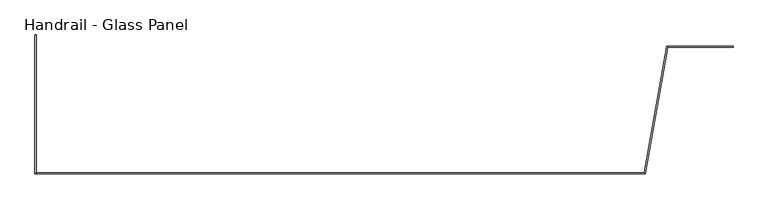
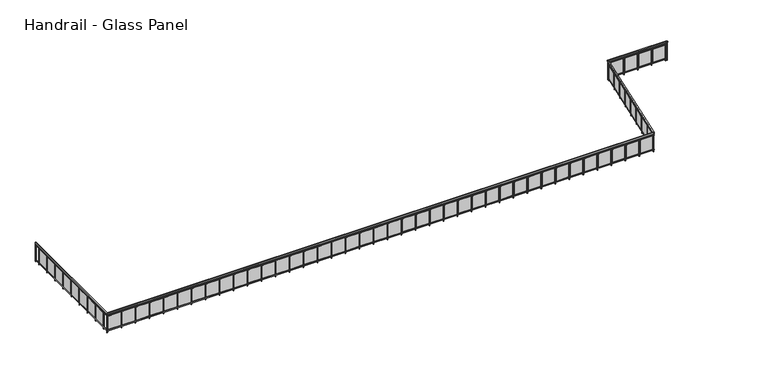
"""IFC4 building model written with IfcOpenShell, lengths in millimetres: railing geometry, Handrail - Glass Panel."""

from ifc_helpers import new_model, si_unit, point, frame, frame_2d, origin, place, context, project, spatial, polyline, circle_curve, trimmed, segment, composite_curve, outline, extrude, faceted_brep, source, transform, mapped, element, save


def handrail_glass_panel_f7548589(model_context):
    return source(origin(), model_context, "Body", "SolidModel", [
        faceted_brep([(-8558.3865899, -9472.6148653, 9014.4), (-8507.5865899, -9472.6148653, 9014.4), (-8507.5865899, -9472.6148653, 8963.6), (-8558.3865899, -9472.6148653, 8963.6), (-8558.3865899, -15123.4148653, 9014.4), (-8507.5865899, -15072.6148653, 9014.4), (-8507.5865899, -15072.6148653, 8963.6), (-8558.3865899, -15123.4148653, 8963.6), (16291.9557207, -15123.4148653, 9014.4), (16249.3294595, -15072.6148653, 9014.4), (16249.3294595, -15072.6148653, 8963.6), (16291.9557207, -15123.4148653, 8963.6), (17200.0396714, -9973.4148653, 9014.4), (17157.4134101, -9922.6148653, 9014.4), (17157.4134101, -9922.6148653, 8963.6), (17200.0396714, -9973.4148653, 8963.6), (19857.4134101, -9973.4148653, 9014.4), (19857.4134101, -9973.4148653, 8963.6), (19857.4134101, -9922.6148653, 8963.6), (19857.4134101, -9922.6148653, 9014.4)], [[[0, 1, 2, 3]], [[1, 0, 4, 5]], [[2, 1, 5, 6]], [[3, 2, 6, 7]], [[0, 3, 7, 4]], [[5, 4, 8, 9]], [[6, 5, 9, 10]], [[7, 6, 10, 11]], [[4, 7, 11, 8]], [[9, 8, 12, 13]], [[10, 9, 13, 14]], [[11, 10, 14, 15]], [[8, 11, 15, 12]], [[16, 17, 18, 19]], [[13, 12, 16, 19]], [[14, 13, 19, 18]], [[15, 14, 18, 17]], [[12, 15, 17, 16]]]),
        faceted_brep([(-8545.6865899, -9472.6148653, 8912.8), (-8520.2865899, -9472.6148653, 8912.8), (-8520.2865899, -9472.6148653, 8887.4), (-8545.6865899, -9472.6148653, 8887.4), (-8545.6865899, -15110.7148653, 8912.8), (-8520.2865899, -15085.3148653, 8912.8), (-8520.2865899, -15085.3148653, 8887.4), (-8545.6865899, -15110.7148653, 8887.4), (16281.2991554, -15110.7148653, 8912.8), (16259.9860248, -15085.3148653, 8912.8), (16259.9860248, -15085.3148653, 8887.4), (16281.2991554, -15110.7148653, 8887.4), (17189.3831061, -9960.7148653, 8912.8), (17168.0699754, -9935.3148653, 8912.8), (17168.0699754, -9935.3148653, 8887.4), (17189.3831061, -9960.7148653, 8887.4), (19857.4134101, -9960.7148653, 8912.8), (19857.4134101, -9960.7148653, 8887.4), (19857.4134101, -9935.3148653, 8887.4), (19857.4134101, -9935.3148653, 8912.8)], [[[0, 1, 2, 3]], [[1, 0, 4, 5]], [[2, 1, 5, 6]], [[3, 2, 6, 7]], [[0, 3, 7, 4]], [[5, 4, 8, 9]], [[6, 5, 9, 10]], [[7, 6, 10, 11]], [[4, 7, 11, 8]], [[9, 8, 12, 13]], [[10, 9, 13, 14]], [[11, 10, 14, 15]], [[8, 11, 15, 12]], [[16, 17, 18, 19]], [[13, 12, 16, 19]], [[14, 13, 19, 18]], [[15, 14, 18, 17]], [[12, 15, 17, 16]]]),
        faceted_brep([(-8545.6865899, -9472.6148653, 8201.6), (-8520.2865899, -9472.6148653, 8201.6), (-8520.2865899, -9472.6148653, 8176.2), (-8545.6865899, -9472.6148653, 8176.2), (-8545.6865899, -15110.7148653, 8201.6), (-8520.2865899, -15085.3148653, 8201.6), (-8520.2865899, -15085.3148653, 8176.2), (-8545.6865899, -15110.7148653, 8176.2), (16281.2991554, -15110.7148653, 8201.6), (16259.9860248, -15085.3148653, 8201.6), (16259.9860248, -15085.3148653, 8176.2), (16281.2991554, -15110.7148653, 8176.2), (17189.3831061, -9960.7148653, 8201.6), (17168.0699754, -9935.3148653, 8201.6), (17168.0699754, -9935.3148653, 8176.2), (17189.3831061, -9960.7148653, 8176.2), (19857.4134101, -9960.7148653, 8201.6), (19857.4134101, -9960.7148653, 8176.2), (19857.4134101, -9935.3148653, 8176.2), (19857.4134101, -9935.3148653, 8201.6)], [[[0, 1, 2, 3]], [[1, 0, 4, 5]], [[2, 1, 5, 6]], [[3, 2, 6, 7]], [[0, 3, 7, 4]], [[5, 4, 8, 9]], [[6, 5, 9, 10]], [[7, 6, 10, 11]], [[4, 7, 11, 8]], [[9, 8, 12, 13]], [[10, 9, 13, 14]], [[11, 10, 14, 15]], [[8, 11, 15, 12]], [[16, 17, 18, 19]], [[13, 12, 16, 19]], [[14, 13, 19, 18]], [[15, 14, 18, 17]], [[12, 15, 17, 16]]]),
        extrude(outline(polyline([(19778.5449754, -9957.5398653), (19778.5449754, -9938.4898653), (19797.5949754, -9938.4898653), (19797.5949754, -9957.5398653), (19778.5449754, -9957.5398653)])), frame((0.0, 0.0, 8100.0), z_axis=(0.0, 0.0, 1.0), x_axis=(1.0, 0.0, 0.0)), (0.0, 0.0, 1.0), 863.6),
        extrude(outline(polyline([(19191.1699754, -9941.6648653), (19749.9699754, -9941.6648653), (19749.9699754, -9948.0148653), (19191.1699754, -9948.0148653), (19191.1699754, -9941.6648653)])), frame((0.0, 0.0, 8227.0), z_axis=(0.0, 0.0, 1.0), x_axis=(1.0, 0.0, 0.0)), (0.0, 0.0, 1.0), 635.0),
        extrude(outline(polyline([(19143.5449754, -9957.5398653), (19143.5449754, -9938.4898653), (19162.5949754, -9938.4898653), (19162.5949754, -9957.5398653), (19143.5449754, -9957.5398653)])), frame((0.0, 0.0, 8100.0), z_axis=(0.0, 0.0, 1.0), x_axis=(1.0, 0.0, 0.0)), (0.0, 0.0, 1.0), 863.6),
        extrude(outline(polyline([(18556.1699754, -9941.6648653), (19114.9699754, -9941.6648653), (19114.9699754, -9948.0148653), (18556.1699754, -9948.0148653), (18556.1699754, -9941.6648653)])), frame((0.0, 0.0, 8227.0), z_axis=(0.0, 0.0, 1.0), x_axis=(1.0, 0.0, 0.0)), (0.0, 0.0, 1.0), 635.0),
        extrude(outline(polyline([(18508.5449754, -9957.5398653), (18508.5449754, -9938.4898653), (18527.5949754, -9938.4898653), (18527.5949754, -9957.5398653), (18508.5449754, -9957.5398653)])), frame((0.0, 0.0, 8100.0), z_axis=(0.0, 0.0, 1.0), x_axis=(1.0, 0.0, 0.0)), (0.0, 0.0, 1.0), 863.6),
        extrude(outline(polyline([(17921.1699754, -9941.6648653), (18479.9699754, -9941.6648653), (18479.9699754, -9948.0148653), (17921.1699754, -9948.0148653), (17921.1699754, -9941.6648653)])), frame((0.0, 0.0, 8227.0), z_axis=(0.0, 0.0, 1.0), x_axis=(1.0, 0.0, 0.0)), (0.0, 0.0, 1.0), 635.0),
        extrude(outline(polyline([(17873.5449754, -9957.5398653), (17873.5449754, -9938.4898653), (17892.5949754, -9938.4898653), (17892.5949754, -9957.5398653), (17873.5449754, -9957.5398653)])), frame((0.0, 0.0, 8100.0), z_axis=(0.0, 0.0, 1.0), x_axis=(1.0, 0.0, 0.0)), (0.0, 0.0, 1.0), 863.6),
        extrude(outline(polyline([(17286.1699754, -9941.6648653), (17844.9699754, -9941.6648653), (17844.9699754, -9948.0148653), (17286.1699754, -9948.0148653), (17286.1699754, -9941.6648653)])), frame((0.0, 0.0, 8227.0), z_axis=(0.0, 0.0, 1.0), x_axis=(1.0, 0.0, 0.0)), (0.0, 0.0, 1.0), 635.0),
        extrude(outline(polyline([(17238.5449754, -9957.5398653), (17238.5449754, -9938.4898653), (17257.5949754, -9938.4898653), (17257.5949754, -9957.5398653), (17238.5449754, -9957.5398653)])), frame((0.0, 0.0, 8100.0), z_axis=(0.0, 0.0, 1.0), x_axis=(1.0, 0.0, 0.0)), (0.0, 0.0, 1.0), 863.6),
        extrude(outline(polyline([(17173.4772316, -10032.6374653), (17154.7166439, -10029.3294676), (17158.0246417, -10010.5688799), (17176.7852294, -10013.8768777), (17173.4772316, -10032.6374653)])), frame((0.0, 0.0, 8100.0), z_axis=(0.0, 0.0, 1.0), x_axis=(1.0, 0.0, 0.0)), (0.0, 0.0, 1.0), 863.6),
        extrude(outline(polyline([(17055.8468102, -10608.3322545), (17152.8814119, -10058.0216821), (17159.1349411, -10059.124348), (17062.1003394, -10609.4349204), (17055.8468102, -10608.3322545)])), frame((0.0, 0.0, 8227.0), z_axis=(0.0, 0.0, 1.0), x_axis=(1.0, 0.0, 0.0)), (0.0, 0.0, 1.0), 635.0),
        extrude(outline(polyline([(17063.2106388, -10657.9903885), (17044.4500511, -10654.6823907), (17047.7580489, -10635.921803), (17066.5186366, -10639.2298008), (17063.2106388, -10657.9903885)])), frame((0.0, 0.0, 8100.0), z_axis=(0.0, 0.0, 1.0), x_axis=(1.0, 0.0, 0.0)), (0.0, 0.0, 1.0), 863.6),
        extrude(outline(polyline([(16945.5802174, -11233.6851776), (17042.6148191, -10683.3746052), (17048.8683483, -10684.4772712), (16951.8337466, -11234.7878435), (16945.5802174, -11233.6851776)])), frame((0.0, 0.0, 8227.0), z_axis=(0.0, 0.0, 1.0), x_axis=(1.0, 0.0, 0.0)), (0.0, 0.0, 1.0), 635.0),
        extrude(outline(polyline([(16952.944046, -11283.3433117), (16934.1834583, -11280.0353139), (16937.4914561, -11261.2747262), (16956.2520438, -11264.582724), (16952.944046, -11283.3433117)])), frame((0.0, 0.0, 8100.0), z_axis=(0.0, 0.0, 1.0), x_axis=(1.0, 0.0, 0.0)), (0.0, 0.0, 1.0), 863.6),
        extrude(outline(polyline([(16835.3136246, -11859.0381008), (16932.3482262, -11308.7275284), (16938.6017555, -11309.8301943), (16841.5671538, -11860.1407667), (16835.3136246, -11859.0381008)])), frame((0.0, 0.0, 8227.0), z_axis=(0.0, 0.0, 1.0), x_axis=(1.0, 0.0, 0.0)), (0.0, 0.0, 1.0), 635.0),
        extrude(outline(polyline([(16842.6774532, -11908.6962348), (16823.9168655, -11905.3882371), (16827.2248633, -11886.6276494), (16845.985451, -11889.9356471), (16842.6774532, -11908.6962348)])), frame((0.0, 0.0, 8100.0), z_axis=(0.0, 0.0, 1.0), x_axis=(1.0, 0.0, 0.0)), (0.0, 0.0, 1.0), 863.6),
        extrude(outline(polyline([(16725.0470318, -12484.3910239), (16822.0816334, -11934.0804516), (16828.3351627, -11935.1831175), (16731.300561, -12485.4936899), (16725.0470318, -12484.3910239)])), frame((0.0, 0.0, 8227.0), z_axis=(0.0, 0.0, 1.0), x_axis=(1.0, 0.0, 0.0)), (0.0, 0.0, 1.0), 635.0),
        extrude(outline(polyline([(16732.4108604, -12534.049158), (16713.6502727, -12530.7411602), (16716.9582705, -12511.9805725), (16735.7188582, -12515.2885703), (16732.4108604, -12534.049158)])), frame((0.0, 0.0, 8100.0), z_axis=(0.0, 0.0, 1.0), x_axis=(1.0, 0.0, 0.0)), (0.0, 0.0, 1.0), 863.6),
        extrude(outline(polyline([(16614.7804389, -13109.7439471), (16711.8150406, -12559.4333747), (16718.0685698, -12560.5360406), (16621.0339682, -13110.846613), (16614.7804389, -13109.7439471)])), frame((0.0, 0.0, 8227.0), z_axis=(0.0, 0.0, 1.0), x_axis=(1.0, 0.0, 0.0)), (0.0, 0.0, 1.0), 635.0),
        extrude(outline(polyline([(16622.1442676, -13159.4020812), (16603.3836799, -13156.0940834), (16606.6916776, -13137.3334957), (16625.4522653, -13140.6414935), (16622.1442676, -13159.4020812)])), frame((0.0, 0.0, 8100.0), z_axis=(0.0, 0.0, 1.0), x_axis=(1.0, 0.0, 0.0)), (0.0, 0.0, 1.0), 863.6),
        extrude(outline(polyline([(16504.5138461, -13735.0968703), (16601.5484478, -13184.7862979), (16607.801977, -13185.8889638), (16510.7673753, -13736.1995362), (16504.5138461, -13735.0968703)])), frame((0.0, 0.0, 8227.0), z_axis=(0.0, 0.0, 1.0), x_axis=(1.0, 0.0, 0.0)), (0.0, 0.0, 1.0), 635.0),
        extrude(outline(polyline([(16511.8776747, -13784.7550043), (16493.117087, -13781.4470065), (16496.4250848, -13762.6864188), (16515.1856725, -13765.9944166), (16511.8776747, -13784.7550043)])), frame((0.0, 0.0, 8100.0), z_axis=(0.0, 0.0, 1.0), x_axis=(1.0, 0.0, 0.0)), (0.0, 0.0, 1.0), 863.6),
        extrude(outline(polyline([(16394.2472533, -14360.4497934), (16491.281855, -13810.139221), (16497.5353842, -13811.241887), (16400.5007825, -14361.5524594), (16394.2472533, -14360.4497934)])), frame((0.0, 0.0, 8227.0), z_axis=(0.0, 0.0, 1.0), x_axis=(1.0, 0.0, 0.0)), (0.0, 0.0, 1.0), 635.0),
        extrude(outline(polyline([(16401.6110819, -14410.1079275), (16382.8504942, -14406.7999297), (16386.158492, -14388.039342), (16404.9190797, -14391.3473398), (16401.6110819, -14410.1079275)])), frame((0.0, 0.0, 8100.0), z_axis=(0.0, 0.0, 1.0), x_axis=(1.0, 0.0, 0.0)), (0.0, 0.0, 1.0), 863.6),
        extrude(outline(polyline([(16283.9806605, -14985.8027166), (16381.0152622, -14435.4921442), (16387.2687914, -14436.5948101), (16290.2341897, -14986.9053825), (16283.9806605, -14985.8027166)])), frame((0.0, 0.0, 8227.0), z_axis=(0.0, 0.0, 1.0), x_axis=(1.0, 0.0, 0.0)), (0.0, 0.0, 1.0), 635.0),
        extrude(outline(polyline([(16291.3444891, -15035.4608507), (16272.5839014, -15032.1528529), (16275.8918992, -15013.3922652), (16294.6524869, -15016.700263), (16291.3444891, -15035.4608507)])), frame((0.0, 0.0, 8100.0), z_axis=(0.0, 0.0, 1.0), x_axis=(1.0, 0.0, 0.0)), (0.0, 0.0, 1.0), 863.6),
        extrude(outline(polyline([(16241.8030001, -15107.5398653), (16241.8030001, -15088.4898653), (16260.8530001, -15088.4898653), (16260.8530001, -15107.5398653), (16241.8030001, -15107.5398653)])), frame((0.0, 0.0, 8100.0), z_axis=(0.0, 0.0, 1.0), x_axis=(1.0, 0.0, 0.0)), (0.0, 0.0, 1.0), 863.6),
        extrude(outline(polyline([(15654.4280001, -15091.6648653), (16213.2280001, -15091.6648653), (16213.2280001, -15098.0148653), (15654.4280001, -15098.0148653), (15654.4280001, -15091.6648653)])), frame((0.0, 0.0, 8227.0), z_axis=(0.0, 0.0, 1.0), x_axis=(1.0, 0.0, 0.0)), (0.0, 0.0, 1.0), 635.0),
        extrude(outline(polyline([(15606.8030001, -15107.5398653), (15606.8030001, -15088.4898653), (15625.8530001, -15088.4898653), (15625.8530001, -15107.5398653), (15606.8030001, -15107.5398653)])), frame((0.0, 0.0, 8100.0), z_axis=(0.0, 0.0, 1.0), x_axis=(1.0, 0.0, 0.0)), (0.0, 0.0, 1.0), 863.6),
        extrude(outline(polyline([(15019.4280001, -15091.6648653), (15578.2280001, -15091.6648653), (15578.2280001, -15098.0148653), (15019.4280001, -15098.0148653), (15019.4280001, -15091.6648653)])), frame((0.0, 0.0, 8227.0), z_axis=(0.0, 0.0, 1.0), x_axis=(1.0, 0.0, 0.0)), (0.0, 0.0, 1.0), 635.0),
        extrude(outline(polyline([(14971.8030001, -15107.5398653), (14971.8030001, -15088.4898653), (14990.8530001, -15088.4898653), (14990.8530001, -15107.5398653), (14971.8030001, -15107.5398653)])), frame((0.0, 0.0, 8100.0), z_axis=(0.0, 0.0, 1.0), x_axis=(1.0, 0.0, 0.0)), (0.0, 0.0, 1.0), 863.6),
        extrude(outline(polyline([(14384.4280001, -15091.6648653), (14943.2280001, -15091.6648653), (14943.2280001, -15098.0148653), (14384.4280001, -15098.0148653), (14384.4280001, -15091.6648653)])), frame((0.0, 0.0, 8227.0), z_axis=(0.0, 0.0, 1.0), x_axis=(1.0, 0.0, 0.0)), (0.0, 0.0, 1.0), 635.0),
        extrude(outline(polyline([(14336.8030001, -15107.5398653), (14336.8030001, -15088.4898653), (14355.8530001, -15088.4898653), (14355.8530001, -15107.5398653), (14336.8030001, -15107.5398653)])), frame((0.0, 0.0, 8100.0), z_axis=(0.0, 0.0, 1.0), x_axis=(1.0, 0.0, 0.0)), (0.0, 0.0, 1.0), 863.6),
        extrude(outline(polyline([(13749.4280001, -15091.6648653), (14308.2280001, -15091.6648653), (14308.2280001, -15098.0148653), (13749.4280001, -15098.0148653), (13749.4280001, -15091.6648653)])), frame((0.0, 0.0, 8227.0), z_axis=(0.0, 0.0, 1.0), x_axis=(1.0, 0.0, 0.0)), (0.0, 0.0, 1.0), 635.0),
        extrude(outline(polyline([(13701.8030001, -15107.5398653), (13701.8030001, -15088.4898653), (13720.8530001, -15088.4898653), (13720.8530001, -15107.5398653), (13701.8030001, -15107.5398653)])), frame((0.0, 0.0, 8100.0), z_axis=(0.0, 0.0, 1.0), x_axis=(1.0, 0.0, 0.0)), (0.0, 0.0, 1.0), 863.6),
        extrude(outline(polyline([(13114.4280001, -15091.6648653), (13673.2280001, -15091.6648653), (13673.2280001, -15098.0148653), (13114.4280001, -15098.0148653), (13114.4280001, -15091.6648653)])), frame((0.0, 0.0, 8227.0), z_axis=(0.0, 0.0, 1.0), x_axis=(1.0, 0.0, 0.0)), (0.0, 0.0, 1.0), 635.0),
        extrude(outline(polyline([(13066.8030001, -15107.5398653), (13066.8030001, -15088.4898653), (13085.8530001, -15088.4898653), (13085.8530001, -15107.5398653), (13066.8030001, -15107.5398653)])), frame((0.0, 0.0, 8100.0), z_axis=(0.0, 0.0, 1.0), x_axis=(1.0, 0.0, 0.0)), (0.0, 0.0, 1.0), 863.6),
        extrude(outline(polyline([(12479.4280001, -15091.6648653), (13038.2280001, -15091.6648653), (13038.2280001, -15098.0148653), (12479.4280001, -15098.0148653), (12479.4280001, -15091.6648653)])), frame((0.0, 0.0, 8227.0), z_axis=(0.0, 0.0, 1.0), x_axis=(1.0, 0.0, 0.0)), (0.0, 0.0, 1.0), 635.0),
        extrude(outline(polyline([(12431.8030001, -15107.5398653), (12431.8030001, -15088.4898653), (12450.8530001, -15088.4898653), (12450.8530001, -15107.5398653), (12431.8030001, -15107.5398653)])), frame((0.0, 0.0, 8100.0), z_axis=(0.0, 0.0, 1.0), x_axis=(1.0, 0.0, 0.0)), (0.0, 0.0, 1.0), 863.6),
        extrude(outline(polyline([(11844.4280001, -15091.6648653), (12403.2280001, -15091.6648653), (12403.2280001, -15098.0148653), (11844.4280001, -15098.0148653), (11844.4280001, -15091.6648653)])), frame((0.0, 0.0, 8227.0), z_axis=(0.0, 0.0, 1.0), x_axis=(1.0, 0.0, 0.0)), (0.0, 0.0, 1.0), 635.0),
        extrude(outline(polyline([(11796.8030001, -15107.5398653), (11796.8030001, -15088.4898653), (11815.8530001, -15088.4898653), (11815.8530001, -15107.5398653), (11796.8030001, -15107.5398653)])), frame((0.0, 0.0, 8100.0), z_axis=(0.0, 0.0, 1.0), x_axis=(1.0, 0.0, 0.0)), (0.0, 0.0, 1.0), 863.6),
        extrude(outline(polyline([(11209.4280001, -15091.6648653), (11768.2280001, -15091.6648653), (11768.2280001, -15098.0148653), (11209.4280001, -15098.0148653), (11209.4280001, -15091.6648653)])), frame((0.0, 0.0, 8227.0), z_axis=(0.0, 0.0, 1.0), x_axis=(1.0, 0.0, 0.0)), (0.0, 0.0, 1.0), 635.0),
        extrude(outline(polyline([(11161.8030001, -15107.5398653), (11161.8030001, -15088.4898653), (11180.8530001, -15088.4898653), (11180.8530001, -15107.5398653), (11161.8030001, -15107.5398653)])), frame((0.0, 0.0, 8100.0), z_axis=(0.0, 0.0, 1.0), x_axis=(1.0, 0.0, 0.0)), (0.0, 0.0, 1.0), 863.6),
        extrude(outline(polyline([(10574.4280001, -15091.6648653), (11133.2280001, -15091.6648653), (11133.2280001, -15098.0148653), (10574.4280001, -15098.0148653), (10574.4280001, -15091.6648653)])), frame((0.0, 0.0, 8227.0), z_axis=(0.0, 0.0, 1.0), x_axis=(1.0, 0.0, 0.0)), (0.0, 0.0, 1.0), 635.0),
        extrude(outline(polyline([(10526.8030001, -15107.5398653), (10526.8030001, -15088.4898653), (10545.8530001, -15088.4898653), (10545.8530001, -15107.5398653), (10526.8030001, -15107.5398653)])), frame((0.0, 0.0, 8100.0), z_axis=(0.0, 0.0, 1.0), x_axis=(1.0, 0.0, 0.0)), (0.0, 0.0, 1.0), 863.6),
        extrude(outline(polyline([(9939.4280001, -15091.6648653), (10498.2280001, -15091.6648653), (10498.2280001, -15098.0148653), (9939.4280001, -15098.0148653), (9939.4280001, -15091.6648653)])), frame((0.0, 0.0, 8227.0), z_axis=(0.0, 0.0, 1.0), x_axis=(1.0, 0.0, 0.0)), (0.0, 0.0, 1.0), 635.0),
        extrude(outline(polyline([(9891.8030001, -15107.5398653), (9891.8030001, -15088.4898653), (9910.8530001, -15088.4898653), (9910.8530001, -15107.5398653), (9891.8030001, -15107.5398653)])), frame((0.0, 0.0, 8100.0), z_axis=(0.0, 0.0, 1.0), x_axis=(1.0, 0.0, 0.0)), (0.0, 0.0, 1.0), 863.6),
        extrude(outline(polyline([(9304.4280001, -15091.6648653), (9863.2280001, -15091.6648653), (9863.2280001, -15098.0148653), (9304.4280001, -15098.0148653), (9304.4280001, -15091.6648653)])), frame((0.0, 0.0, 8227.0), z_axis=(0.0, 0.0, 1.0), x_axis=(1.0, 0.0, 0.0)), (0.0, 0.0, 1.0), 635.0),
        extrude(outline(polyline([(9256.8030001, -15107.5398653), (9256.8030001, -15088.4898653), (9275.8530001, -15088.4898653), (9275.8530001, -15107.5398653), (9256.8030001, -15107.5398653)])), frame((0.0, 0.0, 8100.0), z_axis=(0.0, 0.0, 1.0), x_axis=(1.0, 0.0, 0.0)), (0.0, 0.0, 1.0), 863.6),
        extrude(outline(polyline([(8669.4280001, -15091.6648653), (9228.2280001, -15091.6648653), (9228.2280001, -15098.0148653), (8669.4280001, -15098.0148653), (8669.4280001, -15091.6648653)])), frame((0.0, 0.0, 8227.0), z_axis=(0.0, 0.0, 1.0), x_axis=(1.0, 0.0, 0.0)), (0.0, 0.0, 1.0), 635.0),
        extrude(outline(polyline([(8621.8030001, -15107.5398653), (8621.8030001, -15088.4898653), (8640.8530001, -15088.4898653), (8640.8530001, -15107.5398653), (8621.8030001, -15107.5398653)])), frame((0.0, 0.0, 8100.0), z_axis=(0.0, 0.0, 1.0), x_axis=(1.0, 0.0, 0.0)), (0.0, 0.0, 1.0), 863.6),
        extrude(outline(polyline([(8034.4280001, -15091.6648653), (8593.2280001, -15091.6648653), (8593.2280001, -15098.0148653), (8034.4280001, -15098.0148653), (8034.4280001, -15091.6648653)])), frame((0.0, 0.0, 8227.0), z_axis=(0.0, 0.0, 1.0), x_axis=(1.0, 0.0, 0.0)), (0.0, 0.0, 1.0), 635.0),
        extrude(outline(polyline([(7986.8030001, -15107.5398653), (7986.8030001, -15088.4898653), (8005.8530001, -15088.4898653), (8005.8530001, -15107.5398653), (7986.8030001, -15107.5398653)])), frame((0.0, 0.0, 8100.0), z_axis=(0.0, 0.0, 1.0), x_axis=(1.0, 0.0, 0.0)), (0.0, 0.0, 1.0), 863.6),
        extrude(outline(polyline([(7399.4280001, -15091.6648653), (7958.2280001, -15091.6648653), (7958.2280001, -15098.0148653), (7399.4280001, -15098.0148653), (7399.4280001, -15091.6648653)])), frame((0.0, 0.0, 8227.0), z_axis=(0.0, 0.0, 1.0), x_axis=(1.0, 0.0, 0.0)), (0.0, 0.0, 1.0), 635.0),
        extrude(outline(polyline([(7351.8030001, -15107.5398653), (7351.8030001, -15088.4898653), (7370.8530001, -15088.4898653), (7370.8530001, -15107.5398653), (7351.8030001, -15107.5398653)])), frame((0.0, 0.0, 8100.0), z_axis=(0.0, 0.0, 1.0), x_axis=(1.0, 0.0, 0.0)), (0.0, 0.0, 1.0), 863.6),
        extrude(outline(polyline([(6764.4280001, -15091.6648653), (7323.2280001, -15091.6648653), (7323.2280001, -15098.0148653), (6764.4280001, -15098.0148653), (6764.4280001, -15091.6648653)])), frame((0.0, 0.0, 8227.0), z_axis=(0.0, 0.0, 1.0), x_axis=(1.0, 0.0, 0.0)), (0.0, 0.0, 1.0), 635.0),
        extrude(outline(polyline([(6716.8030001, -15107.5398653), (6716.8030001, -15088.4898653), (6735.8530001, -15088.4898653), (6735.8530001, -15107.5398653), (6716.8030001, -15107.5398653)])), frame((0.0, 0.0, 8100.0), z_axis=(0.0, 0.0, 1.0), x_axis=(1.0, 0.0, 0.0)), (0.0, 0.0, 1.0), 863.6),
        extrude(outline(polyline([(6129.4280001, -15091.6648653), (6688.2280001, -15091.6648653), (6688.2280001, -15098.0148653), (6129.4280001, -15098.0148653), (6129.4280001, -15091.6648653)])), frame((0.0, 0.0, 8227.0), z_axis=(0.0, 0.0, 1.0), x_axis=(1.0, 0.0, 0.0)), (0.0, 0.0, 1.0), 635.0),
        extrude(outline(polyline([(6081.8030001, -15107.5398653), (6081.8030001, -15088.4898653), (6100.8530001, -15088.4898653), (6100.8530001, -15107.5398653), (6081.8030001, -15107.5398653)])), frame((0.0, 0.0, 8100.0), z_axis=(0.0, 0.0, 1.0), x_axis=(1.0, 0.0, 0.0)), (0.0, 0.0, 1.0), 863.6),
        extrude(outline(polyline([(5494.4280001, -15091.6648653), (6053.2280001, -15091.6648653), (6053.2280001, -15098.0148653), (5494.4280001, -15098.0148653), (5494.4280001, -15091.6648653)])), frame((0.0, 0.0, 8227.0), z_axis=(0.0, 0.0, 1.0), x_axis=(1.0, 0.0, 0.0)), (0.0, 0.0, 1.0), 635.0),
        extrude(outline(polyline([(5446.8030001, -15107.5398653), (5446.8030001, -15088.4898653), (5465.8530001, -15088.4898653), (5465.8530001, -15107.5398653), (5446.8030001, -15107.5398653)])), frame((0.0, 0.0, 8100.0), z_axis=(0.0, 0.0, 1.0), x_axis=(1.0, 0.0, 0.0)), (0.0, 0.0, 1.0), 863.6),
        extrude(outline(polyline([(4859.4280001, -15091.6648653), (5418.2280001, -15091.6648653), (5418.2280001, -15098.0148653), (4859.4280001, -15098.0148653), (4859.4280001, -15091.6648653)])), frame((0.0, 0.0, 8227.0), z_axis=(0.0, 0.0, 1.0), x_axis=(1.0, 0.0, 0.0)), (0.0, 0.0, 1.0), 635.0),
        extrude(outline(polyline([(4811.8030001, -15107.5398653), (4811.8030001, -15088.4898653), (4830.8530001, -15088.4898653), (4830.8530001, -15107.5398653), (4811.8030001, -15107.5398653)])), frame((0.0, 0.0, 8100.0), z_axis=(0.0, 0.0, 1.0), x_axis=(1.0, 0.0, 0.0)), (0.0, 0.0, 1.0), 863.6),
        extrude(outline(polyline([(4224.4280001, -15091.6648653), (4783.2280001, -15091.6648653), (4783.2280001, -15098.0148653), (4224.4280001, -15098.0148653), (4224.4280001, -15091.6648653)])), frame((0.0, 0.0, 8227.0), z_axis=(0.0, 0.0, 1.0), x_axis=(1.0, 0.0, 0.0)), (0.0, 0.0, 1.0), 635.0),
        extrude(outline(polyline([(4176.8030001, -15107.5398653), (4176.8030001, -15088.4898653), (4195.8530001, -15088.4898653), (4195.8530001, -15107.5398653), (4176.8030001, -15107.5398653)])), frame((0.0, 0.0, 8100.0), z_axis=(0.0, 0.0, 1.0), x_axis=(1.0, 0.0, 0.0)), (0.0, 0.0, 1.0), 863.6),
        extrude(outline(polyline([(3589.4280001, -15091.6648653), (4148.2280001, -15091.6648653), (4148.2280001, -15098.0148653), (3589.4280001, -15098.0148653), (3589.4280001, -15091.6648653)])), frame((0.0, 0.0, 8227.0), z_axis=(0.0, 0.0, 1.0), x_axis=(1.0, 0.0, 0.0)), (0.0, 0.0, 1.0), 635.0),
        extrude(outline(polyline([(3541.8030001, -15107.5398653), (3541.8030001, -15088.4898653), (3560.8530001, -15088.4898653), (3560.8530001, -15107.5398653), (3541.8030001, -15107.5398653)])), frame((0.0, 0.0, 8100.0), z_axis=(0.0, 0.0, 1.0), x_axis=(1.0, 0.0, 0.0)), (0.0, 0.0, 1.0), 863.6),
        extrude(outline(polyline([(2954.4280001, -15091.6648653), (3513.2280001, -15091.6648653), (3513.2280001, -15098.0148653), (2954.4280001, -15098.0148653), (2954.4280001, -15091.6648653)])), frame((0.0, 0.0, 8227.0), z_axis=(0.0, 0.0, 1.0), x_axis=(1.0, 0.0, 0.0)), (0.0, 0.0, 1.0), 635.0),
        extrude(outline(polyline([(2906.8030001, -15107.5398653), (2906.8030001, -15088.4898653), (2925.8530001, -15088.4898653), (2925.8530001, -15107.5398653), (2906.8030001, -15107.5398653)])), frame((0.0, 0.0, 8100.0), z_axis=(0.0, 0.0, 1.0), x_axis=(1.0, 0.0, 0.0)), (0.0, 0.0, 1.0), 863.6),
        extrude(outline(polyline([(2319.4280001, -15091.6648653), (2878.2280001, -15091.6648653), (2878.2280001, -15098.0148653), (2319.4280001, -15098.0148653), (2319.4280001, -15091.6648653)])), frame((0.0, 0.0, 8227.0), z_axis=(0.0, 0.0, 1.0), x_axis=(1.0, 0.0, 0.0)), (0.0, 0.0, 1.0), 635.0),
        extrude(outline(polyline([(2271.8030001, -15107.5398653), (2271.8030001, -15088.4898653), (2290.8530001, -15088.4898653), (2290.8530001, -15107.5398653), (2271.8030001, -15107.5398653)])), frame((0.0, 0.0, 8100.0), z_axis=(0.0, 0.0, 1.0), x_axis=(1.0, 0.0, 0.0)), (0.0, 0.0, 1.0), 863.6),
        extrude(outline(polyline([(1684.4280001, -15091.6648653), (2243.2280001, -15091.6648653), (2243.2280001, -15098.0148653), (1684.4280001, -15098.0148653), (1684.4280001, -15091.6648653)])), frame((0.0, 0.0, 8227.0), z_axis=(0.0, 0.0, 1.0), x_axis=(1.0, 0.0, 0.0)), (0.0, 0.0, 1.0), 635.0),
        extrude(outline(polyline([(1636.8030001, -15107.5398653), (1636.8030001, -15088.4898653), (1655.8530001, -15088.4898653), (1655.8530001, -15107.5398653), (1636.8030001, -15107.5398653)])), frame((0.0, 0.0, 8100.0), z_axis=(0.0, 0.0, 1.0), x_axis=(1.0, 0.0, 0.0)), (0.0, 0.0, 1.0), 863.6),
        extrude(outline(polyline([(1049.4280001, -15091.6648653), (1608.2280001, -15091.6648653), (1608.2280001, -15098.0148653), (1049.4280001, -15098.0148653), (1049.4280001, -15091.6648653)])), frame((0.0, 0.0, 8227.0), z_axis=(0.0, 0.0, 1.0), x_axis=(1.0, 0.0, 0.0)), (0.0, 0.0, 1.0), 635.0),
        extrude(outline(polyline([(1001.8030001, -15107.5398653), (1001.8030001, -15088.4898653), (1020.8530001, -15088.4898653), (1020.8530001, -15107.5398653), (1001.8030001, -15107.5398653)])), frame((0.0, 0.0, 8100.0), z_axis=(0.0, 0.0, 1.0), x_axis=(1.0, 0.0, 0.0)), (0.0, 0.0, 1.0), 863.6),
        extrude(outline(polyline([(414.4280001, -15091.6648653), (973.2280001, -15091.6648653), (973.2280001, -15098.0148653), (414.4280001, -15098.0148653), (414.4280001, -15091.6648653)])), frame((0.0, 0.0, 8227.0), z_axis=(0.0, 0.0, 1.0), x_axis=(1.0, 0.0, 0.0)), (0.0, 0.0, 1.0), 635.0),
        extrude(outline(polyline([(366.8030001, -15107.5398653), (366.8030001, -15088.4898653), (385.8530001, -15088.4898653), (385.8530001, -15107.5398653), (366.8030001, -15107.5398653)])), frame((0.0, 0.0, 8100.0), z_axis=(0.0, 0.0, 1.0), x_axis=(1.0, 0.0, 0.0)), (0.0, 0.0, 1.0), 863.6),
        extrude(outline(polyline([(-220.5719999, -15091.6648653), (338.2280001, -15091.6648653), (338.2280001, -15098.0148653), (-220.5719999, -15098.0148653), (-220.5719999, -15091.6648653)])), frame((0.0, 0.0, 8227.0), z_axis=(0.0, 0.0, 1.0), x_axis=(1.0, 0.0, 0.0)), (0.0, 0.0, 1.0), 635.0),
        extrude(outline(polyline([(-268.1969999, -15107.5398653), (-268.1969999, -15088.4898653), (-249.1469999, -15088.4898653), (-249.1469999, -15107.5398653), (-268.1969999, -15107.5398653)])), frame((0.0, 0.0, 8100.0), z_axis=(0.0, 0.0, 1.0), x_axis=(1.0, 0.0, 0.0)), (0.0, 0.0, 1.0), 863.6),
        extrude(outline(polyline([(-855.5719999, -15091.6648653), (-296.7719999, -15091.6648653), (-296.7719999, -15098.0148653), (-855.5719999, -15098.0148653), (-855.5719999, -15091.6648653)])), frame((0.0, 0.0, 8227.0), z_axis=(0.0, 0.0, 1.0), x_axis=(1.0, 0.0, 0.0)), (0.0, 0.0, 1.0), 635.0),
        extrude(outline(polyline([(-903.1969999, -15107.5398653), (-903.1969999, -15088.4898653), (-884.1469999, -15088.4898653), (-884.1469999, -15107.5398653), (-903.1969999, -15107.5398653)])), frame((0.0, 0.0, 8100.0), z_axis=(0.0, 0.0, 1.0), x_axis=(1.0, 0.0, 0.0)), (0.0, 0.0, 1.0), 863.6),
        extrude(outline(polyline([(-1490.5719999, -15091.6648653), (-931.7719999, -15091.6648653), (-931.7719999, -15098.0148653), (-1490.5719999, -15098.0148653), (-1490.5719999, -15091.6648653)])), frame((0.0, 0.0, 8227.0), z_axis=(0.0, 0.0, 1.0), x_axis=(1.0, 0.0, 0.0)), (0.0, 0.0, 1.0), 635.0),
        extrude(outline(polyline([(-1538.1969999, -15107.5398653), (-1538.1969999, -15088.4898653), (-1519.1469999, -15088.4898653), (-1519.1469999, -15107.5398653), (-1538.1969999, -15107.5398653)])), frame((0.0, 0.0, 8100.0), z_axis=(0.0, 0.0, 1.0), x_axis=(1.0, 0.0, 0.0)), (0.0, 0.0, 1.0), 863.6),
        extrude(outline(polyline([(-2125.5719999, -15091.6648653), (-1566.7719999, -15091.6648653), (-1566.7719999, -15098.0148653), (-2125.5719999, -15098.0148653), (-2125.5719999, -15091.6648653)])), frame((0.0, 0.0, 8227.0), z_axis=(0.0, 0.0, 1.0), x_axis=(1.0, 0.0, 0.0)), (0.0, 0.0, 1.0), 635.0),
        extrude(outline(polyline([(-2173.1969999, -15107.5398653), (-2173.1969999, -15088.4898653), (-2154.1469999, -15088.4898653), (-2154.1469999, -15107.5398653), (-2173.1969999, -15107.5398653)])), frame((0.0, 0.0, 8100.0), z_axis=(0.0, 0.0, 1.0), x_axis=(1.0, 0.0, 0.0)), (0.0, 0.0, 1.0), 863.6),
        extrude(outline(polyline([(-2760.5719999, -15091.6648653), (-2201.7719999, -15091.6648653), (-2201.7719999, -15098.0148653), (-2760.5719999, -15098.0148653), (-2760.5719999, -15091.6648653)])), frame((0.0, 0.0, 8227.0), z_axis=(0.0, 0.0, 1.0), x_axis=(1.0, 0.0, 0.0)), (0.0, 0.0, 1.0), 635.0),
        extrude(outline(polyline([(-2808.1969999, -15107.5398653), (-2808.1969999, -15088.4898653), (-2789.1469999, -15088.4898653), (-2789.1469999, -15107.5398653), (-2808.1969999, -15107.5398653)])), frame((0.0, 0.0, 8100.0), z_axis=(0.0, 0.0, 1.0), x_axis=(1.0, 0.0, 0.0)), (0.0, 0.0, 1.0), 863.6),
        extrude(outline(polyline([(-3395.5719999, -15091.6648653), (-2836.7719999, -15091.6648653), (-2836.7719999, -15098.0148653), (-3395.5719999, -15098.0148653), (-3395.5719999, -15091.6648653)])), frame((0.0, 0.0, 8227.0), z_axis=(0.0, 0.0, 1.0), x_axis=(1.0, 0.0, 0.0)), (0.0, 0.0, 1.0), 635.0),
        extrude(outline(polyline([(-3443.1969999, -15107.5398653), (-3443.1969999, -15088.4898653), (-3424.1469999, -15088.4898653), (-3424.1469999, -15107.5398653), (-3443.1969999, -15107.5398653)])), frame((0.0, 0.0, 8100.0), z_axis=(0.0, 0.0, 1.0), x_axis=(1.0, 0.0, 0.0)), (0.0, 0.0, 1.0), 863.6),
        extrude(outline(polyline([(-4030.5719999, -15091.6648653), (-3471.7719999, -15091.6648653), (-3471.7719999, -15098.0148653), (-4030.5719999, -15098.0148653), (-4030.5719999, -15091.6648653)])), frame((0.0, 0.0, 8227.0), z_axis=(0.0, 0.0, 1.0), x_axis=(1.0, 0.0, 0.0)), (0.0, 0.0, 1.0), 635.0),
        extrude(outline(polyline([(-4078.1969999, -15107.5398653), (-4078.1969999, -15088.4898653), (-4059.1469999, -15088.4898653), (-4059.1469999, -15107.5398653), (-4078.1969999, -15107.5398653)])), frame((0.0, 0.0, 8100.0), z_axis=(0.0, 0.0, 1.0), x_axis=(1.0, 0.0, 0.0)), (0.0, 0.0, 1.0), 863.6),
        extrude(outline(polyline([(-4665.5719999, -15091.6648653), (-4106.7719999, -15091.6648653), (-4106.7719999, -15098.0148653), (-4665.5719999, -15098.0148653), (-4665.5719999, -15091.6648653)])), frame((0.0, 0.0, 8227.0), z_axis=(0.0, 0.0, 1.0), x_axis=(1.0, 0.0, 0.0)), (0.0, 0.0, 1.0), 635.0),
        extrude(outline(polyline([(-4713.1969999, -15107.5398653), (-4713.1969999, -15088.4898653), (-4694.1469999, -15088.4898653), (-4694.1469999, -15107.5398653), (-4713.1969999, -15107.5398653)])), frame((0.0, 0.0, 8100.0), z_axis=(0.0, 0.0, 1.0), x_axis=(1.0, 0.0, 0.0)), (0.0, 0.0, 1.0), 863.6),
        extrude(outline(polyline([(-5300.5719999, -15091.6648653), (-4741.7719999, -15091.6648653), (-4741.7719999, -15098.0148653), (-5300.5719999, -15098.0148653), (-5300.5719999, -15091.6648653)])), frame((0.0, 0.0, 8227.0), z_axis=(0.0, 0.0, 1.0), x_axis=(1.0, 0.0, 0.0)), (0.0, 0.0, 1.0), 635.0),
        extrude(outline(polyline([(-5348.1969999, -15107.5398653), (-5348.1969999, -15088.4898653), (-5329.1469999, -15088.4898653), (-5329.1469999, -15107.5398653), (-5348.1969999, -15107.5398653)])), frame((0.0, 0.0, 8100.0), z_axis=(0.0, 0.0, 1.0), x_axis=(1.0, 0.0, 0.0)), (0.0, 0.0, 1.0), 863.6),
        extrude(outline(polyline([(-5935.5719999, -15091.6648653), (-5376.7719999, -15091.6648653), (-5376.7719999, -15098.0148653), (-5935.5719999, -15098.0148653), (-5935.5719999, -15091.6648653)])), frame((0.0, 0.0, 8227.0), z_axis=(0.0, 0.0, 1.0), x_axis=(1.0, 0.0, 0.0)), (0.0, 0.0, 1.0), 635.0),
        extrude(outline(polyline([(-5983.1969999, -15107.5398653), (-5983.1969999, -15088.4898653), (-5964.1469999, -15088.4898653), (-5964.1469999, -15107.5398653), (-5983.1969999, -15107.5398653)])), frame((0.0, 0.0, 8100.0), z_axis=(0.0, 0.0, 1.0), x_axis=(1.0, 0.0, 0.0)), (0.0, 0.0, 1.0), 863.6),
        extrude(outline(polyline([(-6570.5719999, -15091.6648653), (-6011.7719999, -15091.6648653), (-6011.7719999, -15098.0148653), (-6570.5719999, -15098.0148653), (-6570.5719999, -15091.6648653)])), frame((0.0, 0.0, 8227.0), z_axis=(0.0, 0.0, 1.0), x_axis=(1.0, 0.0, 0.0)), (0.0, 0.0, 1.0), 635.0),
        extrude(outline(polyline([(-6618.1969999, -15107.5398653), (-6618.1969999, -15088.4898653), (-6599.1469999, -15088.4898653), (-6599.1469999, -15107.5398653), (-6618.1969999, -15107.5398653)])), frame((0.0, 0.0, 8100.0), z_axis=(0.0, 0.0, 1.0), x_axis=(1.0, 0.0, 0.0)), (0.0, 0.0, 1.0), 863.6),
        extrude(outline(polyline([(-7205.5719999, -15091.6648653), (-6646.7719999, -15091.6648653), (-6646.7719999, -15098.0148653), (-7205.5719999, -15098.0148653), (-7205.5719999, -15091.6648653)])), frame((0.0, 0.0, 8227.0), z_axis=(0.0, 0.0, 1.0), x_axis=(1.0, 0.0, 0.0)), (0.0, 0.0, 1.0), 635.0),
        extrude(outline(polyline([(-7253.1969999, -15107.5398653), (-7253.1969999, -15088.4898653), (-7234.1469999, -15088.4898653), (-7234.1469999, -15107.5398653), (-7253.1969999, -15107.5398653)])), frame((0.0, 0.0, 8100.0), z_axis=(0.0, 0.0, 1.0), x_axis=(1.0, 0.0, 0.0)), (0.0, 0.0, 1.0), 863.6),
        extrude(outline(polyline([(-7840.5719999, -15091.6648653), (-7281.7719999, -15091.6648653), (-7281.7719999, -15098.0148653), (-7840.5719999, -15098.0148653), (-7840.5719999, -15091.6648653)])), frame((0.0, 0.0, 8227.0), z_axis=(0.0, 0.0, 1.0), x_axis=(1.0, 0.0, 0.0)), (0.0, 0.0, 1.0), 635.0),
        extrude(outline(polyline([(-7888.1969999, -15107.5398653), (-7888.1969999, -15088.4898653), (-7869.1469999, -15088.4898653), (-7869.1469999, -15107.5398653), (-7888.1969999, -15107.5398653)])), frame((0.0, 0.0, 8100.0), z_axis=(0.0, 0.0, 1.0), x_axis=(1.0, 0.0, 0.0)), (0.0, 0.0, 1.0), 863.6),
        extrude(outline(polyline([(-8475.5719999, -15091.6648653), (-7916.7719999, -15091.6648653), (-7916.7719999, -15098.0148653), (-8475.5719999, -15098.0148653), (-8475.5719999, -15091.6648653)])), frame((0.0, 0.0, 8227.0), z_axis=(0.0, 0.0, 1.0), x_axis=(1.0, 0.0, 0.0)), (0.0, 0.0, 1.0), 635.0),
        extrude(outline(polyline([(-8523.1969999, -15107.5398653), (-8523.1969999, -15088.4898653), (-8504.1469999, -15088.4898653), (-8504.1469999, -15107.5398653), (-8523.1969999, -15107.5398653)])), frame((0.0, 0.0, 8100.0), z_axis=(0.0, 0.0, 1.0), x_axis=(1.0, 0.0, 0.0)), (0.0, 0.0, 1.0), 863.6),
        extrude(outline(polyline([(-8542.5115899, -14815.7898653), (-8523.4615899, -14815.7898653), (-8523.4615899, -14834.8398653), (-8542.5115899, -14834.8398653), (-8542.5115899, -14815.7898653)])), frame((0.0, 0.0, 8100.0), z_axis=(0.0, 0.0, 1.0), x_axis=(1.0, 0.0, 0.0)), (0.0, 0.0, 1.0), 863.6),
        extrude(outline(polyline([(-8526.6365899, -14228.4148653), (-8526.6365899, -14787.2148653), (-8532.9865899, -14787.2148653), (-8532.9865899, -14228.4148653), (-8526.6365899, -14228.4148653)])), frame((0.0, 0.0, 8227.0), z_axis=(0.0, 0.0, 1.0), x_axis=(1.0, 0.0, 0.0)), (0.0, 0.0, 1.0), 635.0),
        extrude(outline(polyline([(-8542.5115899, -14180.7898653), (-8523.4615899, -14180.7898653), (-8523.4615899, -14199.8398653), (-8542.5115899, -14199.8398653), (-8542.5115899, -14180.7898653)])), frame((0.0, 0.0, 8100.0), z_axis=(0.0, 0.0, 1.0), x_axis=(1.0, 0.0, 0.0)), (0.0, 0.0, 1.0), 863.6),
        extrude(outline(polyline([(-8526.6365899, -13593.4148653), (-8526.6365899, -14152.2148653), (-8532.9865899, -14152.2148653), (-8532.9865899, -13593.4148653), (-8526.6365899, -13593.4148653)])), frame((0.0, 0.0, 8227.0), z_axis=(0.0, 0.0, 1.0), x_axis=(1.0, 0.0, 0.0)), (0.0, 0.0, 1.0), 635.0),
        extrude(outline(polyline([(-8542.5115899, -13545.7898653), (-8523.4615899, -13545.7898653), (-8523.4615899, -13564.8398653), (-8542.5115899, -13564.8398653), (-8542.5115899, -13545.7898653)])), frame((0.0, 0.0, 8100.0), z_axis=(0.0, 0.0, 1.0), x_axis=(1.0, 0.0, 0.0)), (0.0, 0.0, 1.0), 863.6),
        extrude(outline(polyline([(-8526.6365899, -12958.4148653), (-8526.6365899, -13517.2148653), (-8532.9865899, -13517.2148653), (-8532.9865899, -12958.4148653), (-8526.6365899, -12958.4148653)])), frame((0.0, 0.0, 8227.0), z_axis=(0.0, 0.0, 1.0), x_axis=(1.0, 0.0, 0.0)), (0.0, 0.0, 1.0), 635.0),
        extrude(outline(polyline([(-8542.5115899, -12910.7898653), (-8523.4615899, -12910.7898653), (-8523.4615899, -12929.8398653), (-8542.5115899, -12929.8398653), (-8542.5115899, -12910.7898653)])), frame((0.0, 0.0, 8100.0), z_axis=(0.0, 0.0, 1.0), x_axis=(1.0, 0.0, 0.0)), (0.0, 0.0, 1.0), 863.6),
        extrude(outline(polyline([(-8526.6365899, -12323.4148653), (-8526.6365899, -12882.2148653), (-8532.9865899, -12882.2148653), (-8532.9865899, -12323.4148653), (-8526.6365899, -12323.4148653)])), frame((0.0, 0.0, 8227.0), z_axis=(0.0, 0.0, 1.0), x_axis=(1.0, 0.0, 0.0)), (0.0, 0.0, 1.0), 635.0),
        extrude(outline(polyline([(-8542.5115899, -12275.7898653), (-8523.4615899, -12275.7898653), (-8523.4615899, -12294.8398653), (-8542.5115899, -12294.8398653), (-8542.5115899, -12275.7898653)])), frame((0.0, 0.0, 8100.0), z_axis=(0.0, 0.0, 1.0), x_axis=(1.0, 0.0, 0.0)), (0.0, 0.0, 1.0), 863.6),
        extrude(outline(polyline([(-8526.6365899, -11688.4148653), (-8526.6365899, -12247.2148653), (-8532.9865899, -12247.2148653), (-8532.9865899, -11688.4148653), (-8526.6365899, -11688.4148653)])), frame((0.0, 0.0, 8227.0), z_axis=(0.0, 0.0, 1.0), x_axis=(1.0, 0.0, 0.0)), (0.0, 0.0, 1.0), 635.0),
        extrude(outline(polyline([(-8542.5115899, -11640.7898653), (-8523.4615899, -11640.7898653), (-8523.4615899, -11659.8398653), (-8542.5115899, -11659.8398653), (-8542.5115899, -11640.7898653)])), frame((0.0, 0.0, 8100.0), z_axis=(0.0, 0.0, 1.0), x_axis=(1.0, 0.0, 0.0)), (0.0, 0.0, 1.0), 863.6),
        extrude(outline(polyline([(-8526.6365899, -11053.4148653), (-8526.6365899, -11612.2148653), (-8532.9865899, -11612.2148653), (-8532.9865899, -11053.4148653), (-8526.6365899, -11053.4148653)])), frame((0.0, 0.0, 8227.0), z_axis=(0.0, 0.0, 1.0), x_axis=(1.0, 0.0, 0.0)), (0.0, 0.0, 1.0), 635.0),
        extrude(outline(polyline([(-8542.5115899, -11005.7898653), (-8523.4615899, -11005.7898653), (-8523.4615899, -11024.8398653), (-8542.5115899, -11024.8398653), (-8542.5115899, -11005.7898653)])), frame((0.0, 0.0, 8100.0), z_axis=(0.0, 0.0, 1.0), x_axis=(1.0, 0.0, 0.0)), (0.0, 0.0, 1.0), 863.6),
        extrude(outline(polyline([(-8526.6365899, -10418.4148653), (-8526.6365899, -10977.2148653), (-8532.9865899, -10977.2148653), (-8532.9865899, -10418.4148653), (-8526.6365899, -10418.4148653)])), frame((0.0, 0.0, 8227.0), z_axis=(0.0, 0.0, 1.0), x_axis=(1.0, 0.0, 0.0)), (0.0, 0.0, 1.0), 635.0),
        extrude(outline(polyline([(-8542.5115899, -10370.7898653), (-8523.4615899, -10370.7898653), (-8523.4615899, -10389.8398653), (-8542.5115899, -10389.8398653), (-8542.5115899, -10370.7898653)])), frame((0.0, 0.0, 8100.0), z_axis=(0.0, 0.0, 1.0), x_axis=(1.0, 0.0, 0.0)), (0.0, 0.0, 1.0), 863.6),
        extrude(outline(polyline([(-8526.6365899, -9783.4148653), (-8526.6365899, -10342.2148653), (-8532.9865899, -10342.2148653), (-8532.9865899, -9783.4148653), (-8526.6365899, -9783.4148653)])), frame((0.0, 0.0, 8227.0), z_axis=(0.0, 0.0, 1.0), x_axis=(1.0, 0.0, 0.0)), (0.0, 0.0, 1.0), 635.0),
        extrude(outline(polyline([(-8542.5115899, -9735.7898653), (-8523.4615899, -9735.7898653), (-8523.4615899, -9754.8398653), (-8542.5115899, -9754.8398653), (-8542.5115899, -9735.7898653)])), frame((0.0, 0.0, 8100.0), z_axis=(0.0, 0.0, 1.0), x_axis=(1.0, 0.0, 0.0)), (0.0, 0.0, 1.0), 863.6),
        extrude(outline(composite_curve([segment(trimmed(circle_curve(frame_2d((17178.7265407, -9948.0148653)), 12.7), [point((17166.2194823, -9945.8095334))], [point((17191.2335992, -9950.2201971))], False, "CARTESIAN"), True, "CONTINUOUS"), segment(trimmed(circle_curve(frame_2d((17178.7265407, -9948.0148653)), 12.7), [point((17191.2335992, -9950.2201971))], [point((17166.2194823, -9945.8095334))], False, "CARTESIAN"), True, "CONTINUOUS")], self_intersect=False)), frame((0.0, 0.0, 8100.0), z_axis=(0.0, 0.0, 1.0), x_axis=(1.0, 0.0, 0.0)), (0.0, 0.0, 1.0), 863.6),
        extrude(outline(composite_curve([segment(trimmed(circle_curve(frame_2d((16270.6425901, -15098.0148653)), 12.7), [point((16270.6425901, -15085.3148653))], [point((16270.6425901, -15110.7148653))], False, "CARTESIAN"), True, "CONTINUOUS"), segment(trimmed(circle_curve(frame_2d((16270.6425901, -15098.0148653)), 12.7), [point((16270.6425901, -15110.7148653))], [point((16270.6425901, -15085.3148653))], False, "CARTESIAN"), True, "CONTINUOUS")], self_intersect=False)), frame((0.0, 0.0, 8100.0), z_axis=(0.0, 0.0, 1.0), x_axis=(1.0, 0.0, 0.0)), (0.0, 0.0, 1.0), 863.6),
        extrude(outline(composite_curve([segment(trimmed(circle_curve(frame_2d((-8532.9865899, -15098.0148653)), 12.7), [point((-8520.2865899, -15098.0148653))], [point((-8545.6865899, -15098.0148653))], False, "CARTESIAN"), True, "CONTINUOUS"), segment(trimmed(circle_curve(frame_2d((-8532.9865899, -15098.0148653)), 12.7), [point((-8545.6865899, -15098.0148653))], [point((-8520.2865899, -15098.0148653))], False, "CARTESIAN"), True, "CONTINUOUS")], self_intersect=False)), frame((0.0, 0.0, 8100.0), z_axis=(0.0, 0.0, 1.0), x_axis=(1.0, 0.0, 0.0)), (0.0, 0.0, 1.0), 863.6),
        extrude(outline(composite_curve([segment(trimmed(circle_curve(frame_2d((19847.8884101, -9948.0148653)), 12.7), [point((19847.8884101, -9935.3148653))], [point((19847.8884101, -9960.7148653))], False, "CARTESIAN"), True, "CONTINUOUS"), segment(trimmed(circle_curve(frame_2d((19847.8884101, -9948.0148653)), 12.7), [point((19847.8884101, -9960.7148653))], [point((19847.8884101, -9935.3148653))], False, "CARTESIAN"), True, "CONTINUOUS")], self_intersect=False)), frame((0.0, 0.0, 8100.0), z_axis=(0.0, 0.0, 1.0), x_axis=(1.0, 0.0, 0.0)), (0.0, 0.0, 1.0), 863.6),
        extrude(outline(polyline([(-8552.0365899, -9463.0898653), (-8513.9365899, -9463.0898653), (-8513.9365899, -9501.1898653), (-8552.0365899, -9501.1898653), (-8552.0365899, -9463.0898653)])), frame((0.0, 0.0, 8100.0), z_axis=(0.0, 0.0, 1.0), x_axis=(1.0, 0.0, 0.0)), (0.0, 0.0, 1.0), 863.6),
    ])


if __name__ == "__main__":
    model = new_model("IFC4")
    model_context = context("Model", 3, world=origin())
    ifc_project = project(units=[si_unit("LENGTHUNIT", "METRE", prefix="MILLI")], contexts=[model_context])
    site = spatial("IfcSite", under=ifc_project)
    building = spatial("IfcBuilding", under=site)
    placement = place(None, origin())
    handrail_glass_panel_shape = handrail_glass_panel_f7548589(model_context)
    element("IfcRailing", 1, ObjectType="Handrail - Glass Panel", at=placement, inside=building, context=model_context, shape_type="MappedRepresentation", body=[
        mapped(handrail_glass_panel_shape, transform((0.0, 0.0, 0.0), x_axis=(1.0, 0.0, 0.0), y_axis=(0.0, 1.0, 0.0), z_axis=(0.0, 0.0, 1.0))),
    ])
    save(model, "model.ifc")
